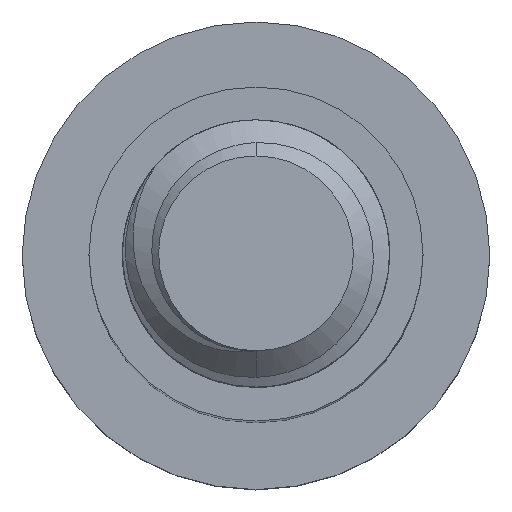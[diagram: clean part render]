
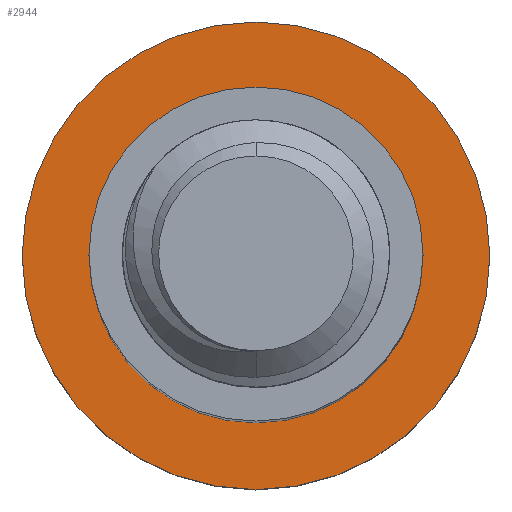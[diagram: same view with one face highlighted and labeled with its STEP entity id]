
A CAD part, top view. The second image highlights one B-rep face of the part: STEP entity #2944.
In plain terms, the highlighted planar face has unit normal (0, 0, 1).
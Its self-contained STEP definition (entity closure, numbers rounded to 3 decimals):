
#114 = FACE_BOUND ( 'NONE', #671, .T. ) ;
#205 = CIRCLE ( 'NONE', #3018, 7. ) ;
#427 = CARTESIAN_POINT ( 'NONE',  ( 7., 0., -30. ) ) ;
#434 = CARTESIAN_POINT ( 'NONE',  ( 0., 0., -30. ) ) ;
#483 = EDGE_CURVE ( 'NONE', #4186, #2691, #3212, .T. ) ;
#563 = EDGE_CURVE ( 'NONE', #1020, #3561, #1907, .T. ) ;
#671 = EDGE_LOOP ( 'NONE', ( #2668, #3626 ) ) ;
#699 = CARTESIAN_POINT ( 'NONE',  ( 0., 0., -30. ) ) ;
#825 = AXIS2_PLACEMENT_3D ( 'NONE', #434, #2396, #2063 ) ;
#930 = ORIENTED_EDGE ( 'NONE', *, *, #563, .F. ) ;
#931 = CARTESIAN_POINT ( 'NONE',  ( 5., 0., -30. ) ) ;
#1020 = VERTEX_POINT ( 'NONE', #427 ) ;
#1079 = FACE_OUTER_BOUND ( 'NONE', #3053, .T. ) ;
#1136 = CARTESIAN_POINT ( 'NONE',  ( 0., 0., -30. ) ) ;
#1264 = ORIENTED_EDGE ( 'NONE', *, *, #2838, .F. ) ;
#1381 = DIRECTION ( 'NONE',  ( 0., 0., -1. ) ) ;
#1382 = DIRECTION ( 'NONE',  ( 0., 0., -1. ) ) ;
#1599 = CARTESIAN_POINT ( 'NONE',  ( -5., 0., -30. ) ) ;
#1722 = DIRECTION ( 'NONE',  ( -1., 0., 0. ) ) ;
#1761 = CARTESIAN_POINT ( 'NONE',  ( 0., 0., -30. ) ) ;
#1907 = CIRCLE ( 'NONE', #3139, 7. ) ;
#2063 = DIRECTION ( 'NONE',  ( -1., 0., 0. ) ) ;
#2380 = DIRECTION ( 'NONE',  ( -1., 0., 0. ) ) ;
#2396 = DIRECTION ( 'NONE',  ( 0., 0., -1. ) ) ;
#2461 = CIRCLE ( 'NONE', #825, 5. ) ;
#2668 = ORIENTED_EDGE ( 'NONE', *, *, #483, .T. ) ;
#2673 = AXIS2_PLACEMENT_3D ( 'NONE', #1136, #4009, #2380 ) ;
#2691 = VERTEX_POINT ( 'NONE', #931 ) ;
#2723 = PLANE ( 'NONE',  #2673 ) ;
#2799 = AXIS2_PLACEMENT_3D ( 'NONE', #2883, #1382, #3948 ) ;
#2838 = EDGE_CURVE ( 'NONE', #3561, #1020, #205, .T. ) ;
#2883 = CARTESIAN_POINT ( 'NONE',  ( 0., 0., -30. ) ) ;
#2944 = ADVANCED_FACE ( 'NONE', ( #114, #1079 ), #2723, .F. ) ;
#3018 = AXIS2_PLACEMENT_3D ( 'NONE', #699, #1381, #1722 ) ;
#3053 = EDGE_LOOP ( 'NONE', ( #930, #1264 ) ) ;
#3067 = DIRECTION ( 'NONE',  ( 0., 0., -1. ) ) ;
#3099 = EDGE_CURVE ( 'NONE', #2691, #4186, #2461, .T. ) ;
#3139 = AXIS2_PLACEMENT_3D ( 'NONE', #1761, #3067, #3728 ) ;
#3212 = CIRCLE ( 'NONE', #2799, 5. ) ;
#3561 = VERTEX_POINT ( 'NONE', #3600 ) ;
#3600 = CARTESIAN_POINT ( 'NONE',  ( -7., 0., -30. ) ) ;
#3626 = ORIENTED_EDGE ( 'NONE', *, *, #3099, .T. ) ;
#3728 = DIRECTION ( 'NONE',  ( -1., 0., 0. ) ) ;
#3948 = DIRECTION ( 'NONE',  ( -1., 0., 0. ) ) ;
#4009 = DIRECTION ( 'NONE',  ( 0., 0., -1. ) ) ;
#4186 = VERTEX_POINT ( 'NONE', #1599 ) ;
